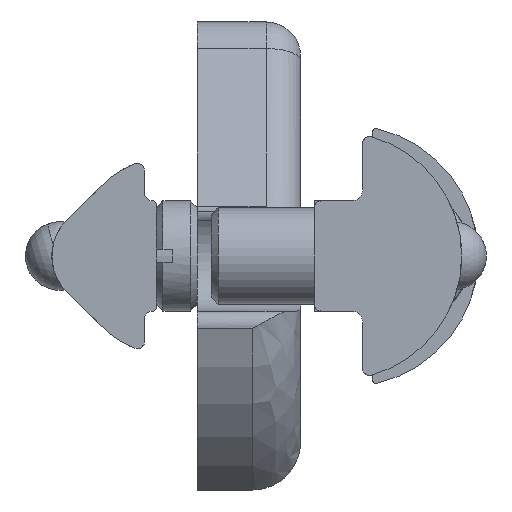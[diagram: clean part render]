
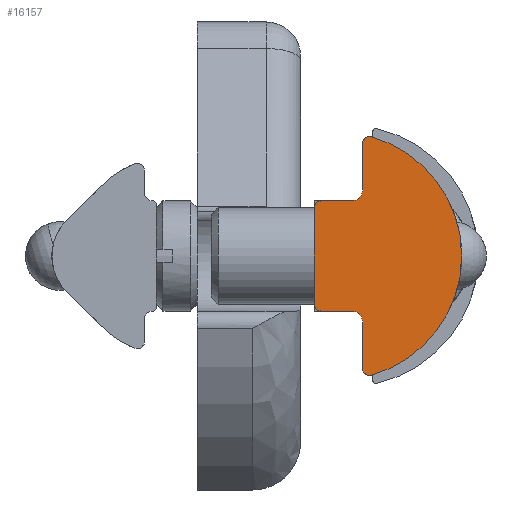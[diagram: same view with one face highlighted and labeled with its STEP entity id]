
A CAD part, front view. The second image highlights one B-rep face of the part: STEP entity #16157.
In plain terms, the highlighted planar face has unit normal (0, -1, 0) as drawn and (0, 0, -1) by its records, which use the part's own axes.
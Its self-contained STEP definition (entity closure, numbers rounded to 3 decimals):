
#60 = ORIENTED_EDGE ( 'NONE', *, *, #4209, .F. ) ;
#258 = DIRECTION ( 'NONE',  ( -1., 0., 0. ) ) ;
#313 = CARTESIAN_POINT ( 'NONE',  ( -8.664, -1.215, -10. ) ) ;
#1085 = DIRECTION ( 'NONE',  ( 0., 0., 1. ) ) ;
#1163 = EDGE_CURVE ( 'NONE', #3834, #17191, #10504, .T. ) ;
#1548 = ORIENTED_EDGE ( 'NONE', *, *, #9397, .F. ) ;
#1620 = VERTEX_POINT ( 'NONE', #4539 ) ;
#2128 = CARTESIAN_POINT ( 'NONE',  ( 0., -1.85, -10. ) ) ;
#2156 = DIRECTION ( 'NONE',  ( 0., 0., 1. ) ) ;
#2445 = CIRCLE ( 'NONE', #5717, 0.5 ) ;
#2823 = DIRECTION ( 'NONE',  ( 0., 1., 0. ) ) ;
#2828 = CARTESIAN_POINT ( 'NONE',  ( -8.683, -1.35, -10. ) ) ;
#3356 = VECTOR ( 'NONE', #7047, 1000. ) ;
#3483 = FACE_OUTER_BOUND ( 'NONE', #11510, .T. ) ;
#3544 = CARTESIAN_POINT ( 'NONE',  ( 4., 0.053, -10. ) ) ;
#3577 = DIRECTION ( 'NONE',  ( 0., 0., 1. ) ) ;
#3645 = EDGE_CURVE ( 'NONE', #13873, #4608, #10818, .T. ) ;
#3669 = CARTESIAN_POINT ( 'NONE',  ( 3.5, -4.85, -10. ) ) ;
#3681 = EDGE_CURVE ( 'NONE', #8413, #9417, #17409, .T. ) ;
#3705 = AXIS2_PLACEMENT_3D ( 'NONE', #14205, #8270, #10605 ) ;
#3834 = VERTEX_POINT ( 'NONE', #13482 ) ;
#3852 = CARTESIAN_POINT ( 'NONE',  ( 8.183, -1.35, -10. ) ) ;
#3983 = ORIENTED_EDGE ( 'NONE', *, *, #4003, .T. ) ;
#4003 = EDGE_CURVE ( 'NONE', #5566, #8413, #8176, .T. ) ;
#4209 = EDGE_CURVE ( 'NONE', #1620, #17191, #10586, .T. ) ;
#4367 = CARTESIAN_POINT ( 'NONE',  ( 4.8, -2.65, -10. ) ) ;
#4539 = CARTESIAN_POINT ( 'NONE',  ( -4., -4.85, -10. ) ) ;
#4553 = EDGE_CURVE ( 'NONE', #17884, #15049, #5068, .T. ) ;
#4608 = VERTEX_POINT ( 'NONE', #9878 ) ;
#5068 = CIRCLE ( 'NONE', #17837, 9. ) ;
#5078 = DIRECTION ( 'NONE',  ( -1., 0., 0. ) ) ;
#5202 = DIRECTION ( 'NONE',  ( 0., 0., -1. ) ) ;
#5566 = VERTEX_POINT ( 'NONE', #16773 ) ;
#5717 = AXIS2_PLACEMENT_3D ( 'NONE', #14373, #5978, #15762 ) ;
#5792 = DIRECTION ( 'NONE',  ( 1., 0., 0. ) ) ;
#5978 = DIRECTION ( 'NONE',  ( 0., 0., 1. ) ) ;
#6199 = VECTOR ( 'NONE', #13345, 1000. ) ;
#6534 = DIRECTION ( 'NONE',  ( -1., 0., 0. ) ) ;
#6581 = AXIS2_PLACEMENT_3D ( 'NONE', #3669, #13476, #5078 ) ;
#6607 = AXIS2_PLACEMENT_3D ( 'NONE', #9489, #1085, #10902 ) ;
#6729 = CARTESIAN_POINT ( 'NONE',  ( 8.183, -1.85, -10. ) ) ;
#6960 = EDGE_CURVE ( 'NONE', #15049, #12763, #2445, .T. ) ;
#7047 = DIRECTION ( 'NONE',  ( 0., -1., 0. ) ) ;
#7272 = ORIENTED_EDGE ( 'NONE', *, *, #1163, .T. ) ;
#7522 = PLANE ( 'NONE',  #12362 ) ;
#7780 = DIRECTION ( 'NONE',  ( 0., 0., -1. ) ) ;
#8094 = CIRCLE ( 'NONE', #16795, 0.8 ) ;
#8176 = CIRCLE ( 'NONE', #13458, 0.5 ) ;
#8270 = DIRECTION ( 'NONE',  ( 0., 0., 1. ) ) ;
#8380 = ORIENTED_EDGE ( 'NONE', *, *, #3681, .T. ) ;
#8413 = VERTEX_POINT ( 'NONE', #6729 ) ;
#8531 = CIRCLE ( 'NONE', #15499, 0.8 ) ;
#8759 = CARTESIAN_POINT ( 'NONE',  ( 0., -5.35, -10. ) ) ;
#8831 = CARTESIAN_POINT ( 'NONE',  ( -4., -2.65, -10. ) ) ;
#8873 = VERTEX_POINT ( 'NONE', #16531 ) ;
#8913 = DIRECTION ( 'NONE',  ( -1., 0., 0. ) ) ;
#9028 = VECTOR ( 'NONE', #12103, 1000. ) ;
#9397 = EDGE_CURVE ( 'NONE', #12763, #12928, #12704, .T. ) ;
#9417 = VERTEX_POINT ( 'NONE', #17571 ) ;
#9437 = ORIENTED_EDGE ( 'NONE', *, *, #6960, .F. ) ;
#9489 = CARTESIAN_POINT ( 'NONE',  ( 0., -3.65, -10. ) ) ;
#9878 = CARTESIAN_POINT ( 'NONE',  ( 4., -4.85, -10. ) ) ;
#9989 = AXIS2_PLACEMENT_3D ( 'NONE', #10571, #2156, #11976 ) ;
#10135 = VERTEX_POINT ( 'NONE', #8831 ) ;
#10504 = LINE ( 'NONE', #8759, #17536 ) ;
#10571 = CARTESIAN_POINT ( 'NONE',  ( -8.183, -1.35, -10. ) ) ;
#10586 = CIRCLE ( 'NONE', #3705, 0.5 ) ;
#10605 = DIRECTION ( 'NONE',  ( -1., 0., 0. ) ) ;
#10756 = CARTESIAN_POINT ( 'NONE',  ( -4., 0.053, -10. ) ) ;
#10818 = LINE ( 'NONE', #3544, #3356 ) ;
#10877 = EDGE_CURVE ( 'NONE', #8873, #10135, #8094, .T. ) ;
#10902 = DIRECTION ( 'NONE',  ( 0., 1., 0. ) ) ;
#11386 = ORIENTED_EDGE ( 'NONE', *, *, #12246, .T. ) ;
#11434 = CARTESIAN_POINT ( 'NONE',  ( 0., -3.65, -10. ) ) ;
#11510 = EDGE_LOOP ( 'NONE', ( #9437, #12161, #13455, #3983, #8380, #12950, #13015, #14044, #7272, #60, #11386, #12991, #17433, #1548 ) ) ;
#11586 = VECTOR ( 'NONE', #6534, 1000. ) ;
#11694 = CARTESIAN_POINT ( 'NONE',  ( 8.731, -5.35, -10. ) ) ;
#11976 = DIRECTION ( 'NONE',  ( -1., 0., 0. ) ) ;
#12103 = DIRECTION ( 'NONE',  ( 0., 1., 0. ) ) ;
#12161 = ORIENTED_EDGE ( 'NONE', *, *, #4553, .F. ) ;
#12246 = EDGE_CURVE ( 'NONE', #1620, #10135, #16936, .T. ) ;
#12362 = AXIS2_PLACEMENT_3D ( 'NONE', #11694, #17332, #8913 ) ;
#12704 = CIRCLE ( 'NONE', #9989, 0.5 ) ;
#12763 = VERTEX_POINT ( 'NONE', #2828 ) ;
#12928 = VERTEX_POINT ( 'NONE', #14293 ) ;
#12950 = ORIENTED_EDGE ( 'NONE', *, *, #15872, .F. ) ;
#12991 = ORIENTED_EDGE ( 'NONE', *, *, #10877, .F. ) ;
#13015 = ORIENTED_EDGE ( 'NONE', *, *, #3645, .T. ) ;
#13345 = DIRECTION ( 'NONE',  ( -1., 0., 0. ) ) ;
#13384 = EDGE_CURVE ( 'NONE', #3834, #4608, #16911, .T. ) ;
#13455 = ORIENTED_EDGE ( 'NONE', *, *, #17920, .F. ) ;
#13458 = AXIS2_PLACEMENT_3D ( 'NONE', #3852, #5202, #17872 ) ;
#13476 = DIRECTION ( 'NONE',  ( 0., 0., 1. ) ) ;
#13482 = CARTESIAN_POINT ( 'NONE',  ( 3.5, -5.35, -10. ) ) ;
#13575 = CARTESIAN_POINT ( 'NONE',  ( 0., 5.35, -10. ) ) ;
#13873 = VERTEX_POINT ( 'NONE', #16791 ) ;
#14044 = ORIENTED_EDGE ( 'NONE', *, *, #13384, .F. ) ;
#14183 = DIRECTION ( 'NONE',  ( 0., 0., -1. ) ) ;
#14205 = CARTESIAN_POINT ( 'NONE',  ( -3.5, -4.85, -10. ) ) ;
#14293 = CARTESIAN_POINT ( 'NONE',  ( -8.183, -1.85, -10. ) ) ;
#14343 = CARTESIAN_POINT ( 'NONE',  ( -3.5, -5.35, -10. ) ) ;
#14373 = CARTESIAN_POINT ( 'NONE',  ( -8.183, -1.35, -10. ) ) ;
#14846 = CIRCLE ( 'NONE', #6607, 9. ) ;
#15049 = VERTEX_POINT ( 'NONE', #313 ) ;
#15272 = LINE ( 'NONE', #16348, #11586 ) ;
#15499 = AXIS2_PLACEMENT_3D ( 'NONE', #4367, #14183, #5792 ) ;
#15762 = DIRECTION ( 'NONE',  ( -1., 0., 0. ) ) ;
#15872 = EDGE_CURVE ( 'NONE', #13873, #9417, #8531, .T. ) ;
#16152 = CARTESIAN_POINT ( 'NONE',  ( -4.8, -2.65, -10. ) ) ;
#16157 = ADVANCED_FACE ( 'NONE', ( #3483 ), #7522, .T. ) ;
#16348 = CARTESIAN_POINT ( 'NONE',  ( 0., -1.85, -10. ) ) ;
#16531 = CARTESIAN_POINT ( 'NONE',  ( -4.8, -1.85, -10. ) ) ;
#16773 = CARTESIAN_POINT ( 'NONE',  ( 8.664, -1.215, -10. ) ) ;
#16791 = CARTESIAN_POINT ( 'NONE',  ( 4., -2.65, -10. ) ) ;
#16795 = AXIS2_PLACEMENT_3D ( 'NONE', #16152, #7780, #17609 ) ;
#16911 = CIRCLE ( 'NONE', #6581, 0.5 ) ;
#16936 = LINE ( 'NONE', #10756, #9028 ) ;
#17191 = VERTEX_POINT ( 'NONE', #14343 ) ;
#17332 = DIRECTION ( 'NONE',  ( 0., 0., -1. ) ) ;
#17409 = LINE ( 'NONE', #2128, #6199 ) ;
#17433 = ORIENTED_EDGE ( 'NONE', *, *, #17810, .T. ) ;
#17536 = VECTOR ( 'NONE', #258, 1000. ) ;
#17571 = CARTESIAN_POINT ( 'NONE',  ( 4.8, -1.85, -10. ) ) ;
#17609 = DIRECTION ( 'NONE',  ( 1., 0., 0. ) ) ;
#17810 = EDGE_CURVE ( 'NONE', #8873, #12928, #15272, .T. ) ;
#17837 = AXIS2_PLACEMENT_3D ( 'NONE', #11434, #3577, #2823 ) ;
#17872 = DIRECTION ( 'NONE',  ( 0., 1., 0. ) ) ;
#17884 = VERTEX_POINT ( 'NONE', #13575 ) ;
#17920 = EDGE_CURVE ( 'NONE', #5566, #17884, #14846, .T. ) ;
